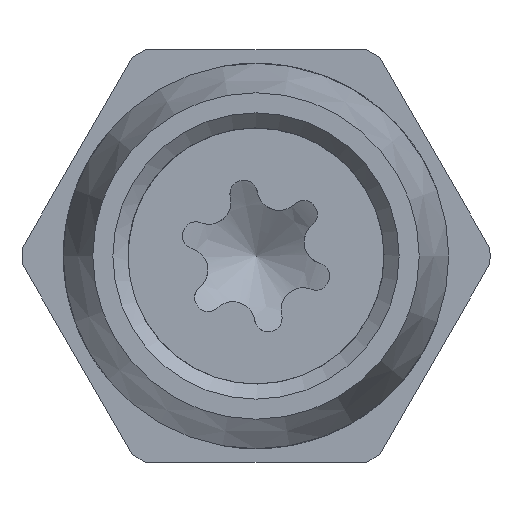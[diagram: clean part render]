
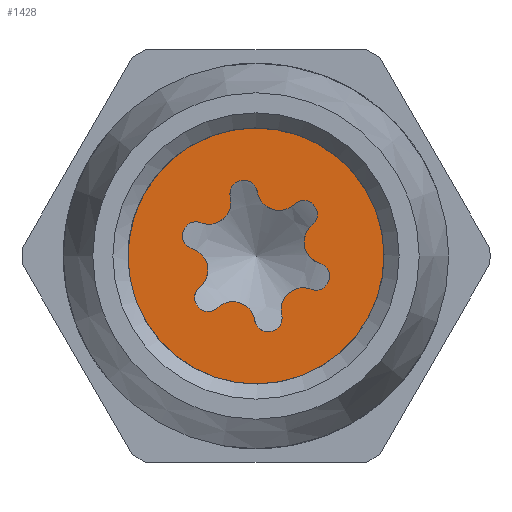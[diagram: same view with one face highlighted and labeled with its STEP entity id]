
A CAD part, front view. The second image highlights one B-rep face of the part: STEP entity #1428.
In plain terms, the highlighted planar face has unit normal (0, -1, 0).
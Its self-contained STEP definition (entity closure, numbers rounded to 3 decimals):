
#57=FACE_BOUND('',#230,.T.);
#71=PLANE('',#1554);
#151=FACE_OUTER_BOUND('',#229,.T.);
#229=EDGE_LOOP('',(#1007));
#230=EDGE_LOOP('',(#1008,#1009,#1010,#1011,#1012,#1013,#1014,#1015,#1016,
#1017,#1018,#1019));
#486=CIRCLE('',#1527,4.65);
#488=CIRCLE('',#1530,0.5);
#489=CIRCLE('',#1532,0.8);
#490=CIRCLE('',#1534,0.5);
#491=CIRCLE('',#1536,0.8);
#492=CIRCLE('',#1538,0.5);
#493=CIRCLE('',#1540,0.8);
#494=CIRCLE('',#1543,0.5);
#495=CIRCLE('',#1545,0.8);
#496=CIRCLE('',#1547,0.5);
#497=CIRCLE('',#1549,0.8);
#498=CIRCLE('',#1551,0.5);
#499=CIRCLE('',#1553,0.8);
#572=VERTEX_POINT('',#2119);
#575=VERTEX_POINT('',#2136);
#576=VERTEX_POINT('',#2138);
#578=VERTEX_POINT('',#2153);
#581=VERTEX_POINT('',#2195);
#582=VERTEX_POINT('',#2199);
#585=VERTEX_POINT('',#2241);
#586=VERTEX_POINT('',#2245);
#594=VERTEX_POINT('',#2384);
#595=VERTEX_POINT('',#2388);
#596=VERTEX_POINT('',#2392);
#597=VERTEX_POINT('',#2396);
#598=VERTEX_POINT('',#2400);
#722=EDGE_CURVE('',#572,#572,#486,.T.);
#726=EDGE_CURVE('',#576,#575,#488,.T.);
#729=EDGE_CURVE('',#575,#578,#489,.T.);
#734=EDGE_CURVE('',#578,#581,#490,.T.);
#735=EDGE_CURVE('',#581,#582,#491,.T.);
#740=EDGE_CURVE('',#582,#585,#492,.T.);
#741=EDGE_CURVE('',#586,#576,#493,.T.);
#751=EDGE_CURVE('',#594,#586,#494,.T.);
#753=EDGE_CURVE('',#595,#594,#495,.T.);
#755=EDGE_CURVE('',#596,#595,#496,.T.);
#757=EDGE_CURVE('',#597,#596,#497,.T.);
#759=EDGE_CURVE('',#598,#597,#498,.T.);
#761=EDGE_CURVE('',#585,#598,#499,.T.);
#1007=ORIENTED_EDGE('',*,*,#722,.F.);
#1008=ORIENTED_EDGE('',*,*,#741,.T.);
#1009=ORIENTED_EDGE('',*,*,#726,.T.);
#1010=ORIENTED_EDGE('',*,*,#729,.T.);
#1011=ORIENTED_EDGE('',*,*,#734,.T.);
#1012=ORIENTED_EDGE('',*,*,#735,.T.);
#1013=ORIENTED_EDGE('',*,*,#740,.T.);
#1014=ORIENTED_EDGE('',*,*,#761,.T.);
#1015=ORIENTED_EDGE('',*,*,#759,.T.);
#1016=ORIENTED_EDGE('',*,*,#757,.T.);
#1017=ORIENTED_EDGE('',*,*,#755,.T.);
#1018=ORIENTED_EDGE('',*,*,#753,.T.);
#1019=ORIENTED_EDGE('',*,*,#751,.T.);
#1428=ADVANCED_FACE('',(#151,#57),#71,.T.);
#1527=AXIS2_PLACEMENT_3D('',#2121,#1711,#1712);
#1530=AXIS2_PLACEMENT_3D('',#2139,#1718,#1719);
#1532=AXIS2_PLACEMENT_3D('',#2154,#1723,#1724);
#1534=AXIS2_PLACEMENT_3D('',#2197,#1729,#1730);
#1536=AXIS2_PLACEMENT_3D('',#2200,#1733,#1734);
#1538=AXIS2_PLACEMENT_3D('',#2243,#1739,#1740);
#1540=AXIS2_PLACEMENT_3D('',#2246,#1743,#1744);
#1543=AXIS2_PLACEMENT_3D('',#2385,#1751,#1752);
#1545=AXIS2_PLACEMENT_3D('',#2389,#1756,#1757);
#1547=AXIS2_PLACEMENT_3D('',#2393,#1761,#1762);
#1549=AXIS2_PLACEMENT_3D('',#2397,#1766,#1767);
#1551=AXIS2_PLACEMENT_3D('',#2401,#1771,#1772);
#1553=AXIS2_PLACEMENT_3D('',#2404,#1776,#1777);
#1554=AXIS2_PLACEMENT_3D('',#2405,#1778,#1779);
#1711=DIRECTION('center_axis',(0.,1.,0.));
#1712=DIRECTION('ref_axis',(0.981,0.,0.194));
#1718=DIRECTION('center_axis',(0.,1.,0.));
#1719=DIRECTION('ref_axis',(0.981,0.,0.194));
#1723=DIRECTION('center_axis',(0.,-1.,0.));
#1724=DIRECTION('ref_axis',(0.981,0.,0.194));
#1729=DIRECTION('center_axis',(0.,1.,0.));
#1730=DIRECTION('ref_axis',(0.981,0.,0.194));
#1733=DIRECTION('center_axis',(0.,-1.,0.));
#1734=DIRECTION('ref_axis',(0.981,0.,0.194));
#1739=DIRECTION('center_axis',(0.,1.,0.));
#1740=DIRECTION('ref_axis',(0.981,0.,0.194));
#1743=DIRECTION('center_axis',(0.,-1.,0.));
#1744=DIRECTION('ref_axis',(-0.981,0.,-0.194));
#1751=DIRECTION('center_axis',(0.,1.,0.));
#1752=DIRECTION('ref_axis',(-0.981,0.,-0.194));
#1756=DIRECTION('center_axis',(0.,-1.,0.));
#1757=DIRECTION('ref_axis',(-0.981,0.,-0.194));
#1761=DIRECTION('center_axis',(0.,1.,0.));
#1762=DIRECTION('ref_axis',(-0.981,0.,-0.194));
#1766=DIRECTION('center_axis',(0.,-1.,0.));
#1767=DIRECTION('ref_axis',(-0.981,0.,-0.194));
#1771=DIRECTION('center_axis',(0.,1.,0.));
#1772=DIRECTION('ref_axis',(0.981,0.,0.194));
#1776=DIRECTION('center_axis',(0.,-1.,0.));
#1777=DIRECTION('ref_axis',(0.981,0.,0.194));
#1778=DIRECTION('center_axis',(0.,-1.,0.));
#1779=DIRECTION('ref_axis',(-0.194,0.,0.981));
#2119=CARTESIAN_POINT('',(-4.561,-2.662,-0.903));
#2121=CARTESIAN_POINT('Origin',(0.,-2.662,
0.));
#2136=CARTESIAN_POINT('',(0.047,-2.662,2.334));
#2138=CARTESIAN_POINT('',(-0.933,-2.662,2.14));
#2139=CARTESIAN_POINT('Origin',(-0.447,-2.662,2.256));
#2153=CARTESIAN_POINT('',(1.387,-2.662,1.878));
#2154=CARTESIAN_POINT('Origin',(0.837,-2.662,2.459));
#2195=CARTESIAN_POINT('',(2.045,-2.662,1.126));
#2197=CARTESIAN_POINT('Origin',(1.731,-2.662,1.515));
#2199=CARTESIAN_POINT('',(2.32,-2.662,-0.262));
#2200=CARTESIAN_POINT('Origin',(2.549,-2.662,0.505));
#2241=CARTESIAN_POINT('',(1.998,-2.662,-1.208));
#2243=CARTESIAN_POINT('Origin',(2.177,-2.662,-0.741));
#2245=CARTESIAN_POINT('',(-1.998,-2.662,1.208));
#2246=CARTESIAN_POINT('Origin',(-1.711,-2.662,1.955));
#2384=CARTESIAN_POINT('',(-2.32,-2.662,0.262));
#2385=CARTESIAN_POINT('Origin',(-2.177,-2.662,0.741));
#2388=CARTESIAN_POINT('',(-2.045,-2.662,-1.126));
#2389=CARTESIAN_POINT('Origin',(-2.549,-2.662,-0.505));
#2392=CARTESIAN_POINT('',(-1.387,-2.662,-1.878));
#2393=CARTESIAN_POINT('Origin',(-1.731,-2.662,-1.515));
#2396=CARTESIAN_POINT('',(-0.047,-2.662,-2.334));
#2397=CARTESIAN_POINT('Origin',(-0.837,-2.662,-2.459));
#2400=CARTESIAN_POINT('',(0.933,-2.662,-2.14));
#2401=CARTESIAN_POINT('Origin',(0.447,-2.662,-2.256));
#2404=CARTESIAN_POINT('Origin',(1.711,-2.662,-1.955));
#2405=CARTESIAN_POINT('Origin',(0.453,-2.662,-2.286));
